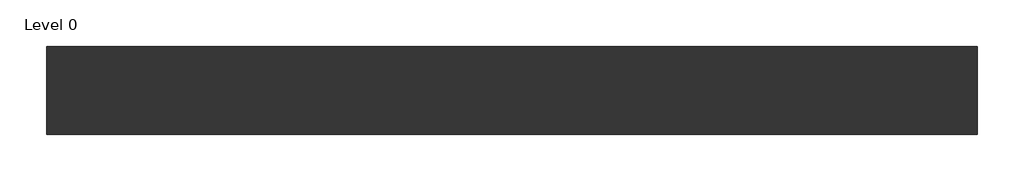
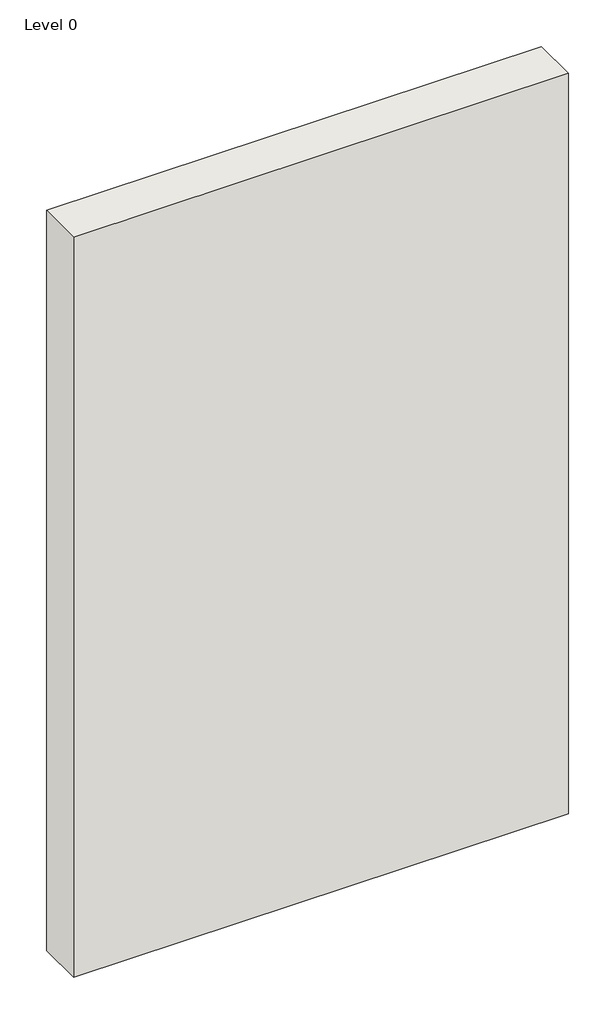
# One storey: 1 wall.
"""IFC4 building model written with IfcOpenShell, lengths in millimetres."""

from ifc_helpers import new_model, si_unit, origin, origin_with_axes, place, context, project, spatial, polyline, outline, extrude, element, save

model = new_model("IFC4")

# Units and contexts
model_context = context("Model", 3, world=origin())
ifc_project = project(units=[si_unit("LENGTHUNIT", "METRE", prefix="MILLI")], contexts=[model_context])

# Site, building, storey
site = spatial("IfcSite", under=ifc_project)
building = spatial("IfcBuilding", under=site)
storey = spatial("IfcBuildingStorey", under=building, Name="Level 0", Elevation=0.0)

# Wall
placement = place(None, origin())
element("IfcWall", 1, ObjectType="A046022 - GypWall Classic", at=placement, inside=storey, context=model_context, shape_type="SweptSolid", body=[
    extrude(outline(polyline([(1155.997948, 408.7669953), (-1944.002052, 408.7669953), (-1944.002052, 701.7669953), (1155.997948, 701.7669953), (1155.997948, 408.7669953)])), origin_with_axes(), (0.0, 0.0, 1.0), 4900.0),
])

save(model, "model.ifc")
